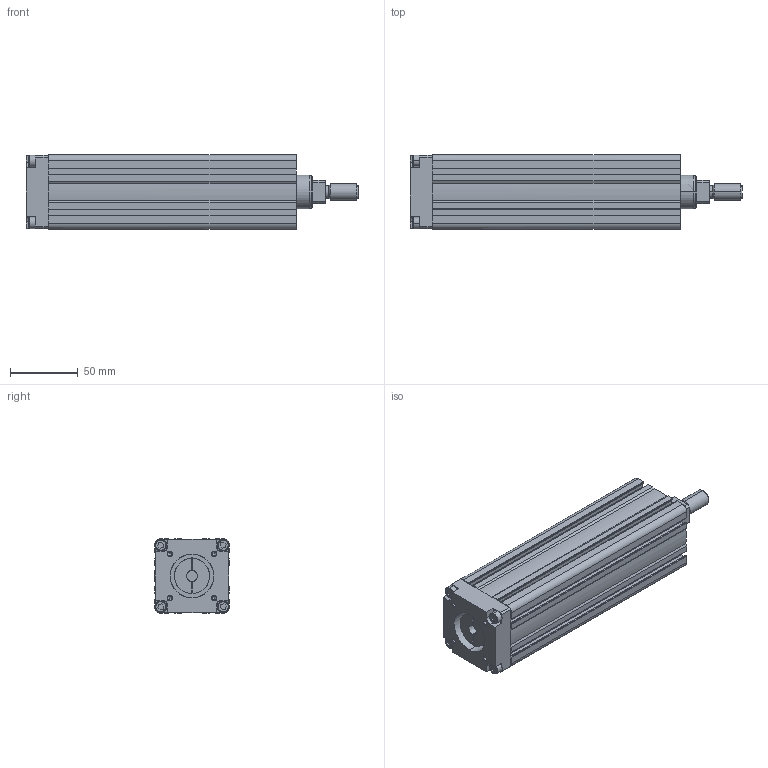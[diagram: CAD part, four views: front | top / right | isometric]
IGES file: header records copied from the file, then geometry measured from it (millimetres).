
Start section: SolidWorks IGES file using analytic representation for surfaces
Global section: file name: C:\Users\render\Documents\CAD Files\Integrated-Actuators\RD-Series\RD-55T\RD-55T-50.IGS; native system: SolidWorks 2009; preprocessor: SolidWorks 2009; author: render; date: 100614.134142; units: millimetre
Bounding box: 245 x 55 x 55 mm (x, y, z)
Surface area: 89485.9 mm2 (no closed solid volume)
Topology: 0 solids, 0 shells, 383 faces, 3699 edges, 3691 vertices
Faces by surface type: bspline 238, revolution 145
